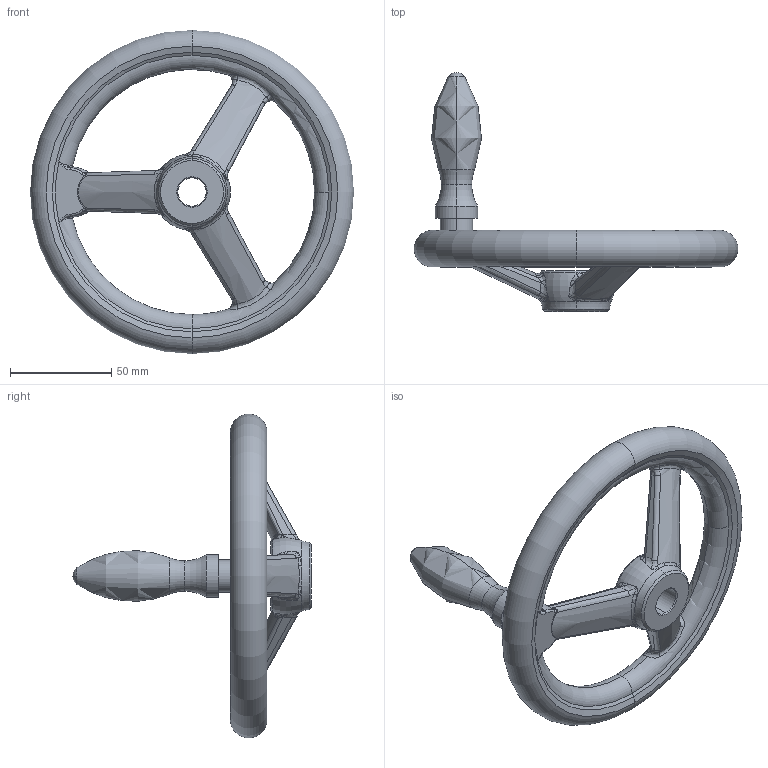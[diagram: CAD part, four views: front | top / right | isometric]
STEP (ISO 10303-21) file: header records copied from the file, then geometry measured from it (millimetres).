
FILE_DESCRIPTION (( 'STEP AP203' ), '1' );
FILE_NAME ('din950_f4_160x14.step', '2010-03-23T10:31:34', ( '_' ), ( '_' ), 'SwSTEP 2.0', 'SolidWorks 2010', '' );
FILE_SCHEMA (( 'CONFIG_CONTROL_DESIGN' ));
Length unit declared in the file: millimetre
Products named in the file (1): din950_f4_160x14
Bounding box: 159.93 x 118 x 159.93 mm (x, y, z)
Volume: 182711.4 mm3; surface area: 41628.9 mm2
Topology: 1 solids, 1 shells, 213 faces, 517 edges, 278 vertices
Faces by surface type: bspline 142, torus 30, cone 17, cylinder 11, plane 11, sphere 2
Entity records: 25687 total; most frequent: CARTESIAN_POINT 21627, ORIENTED_EDGE 986, DIRECTION 573, EDGE_CURVE 493, VERTEX_POINT 278, AXIS2_PLACEMENT_3D 273, B_SPLINE_CURVE_WITH_KNOTS 261, EDGE_LOOP 217
